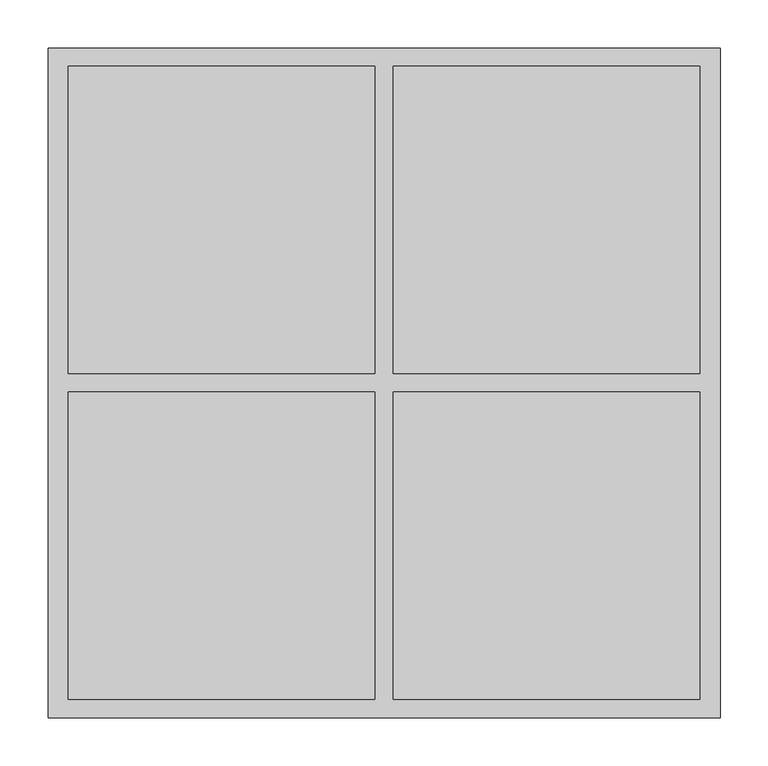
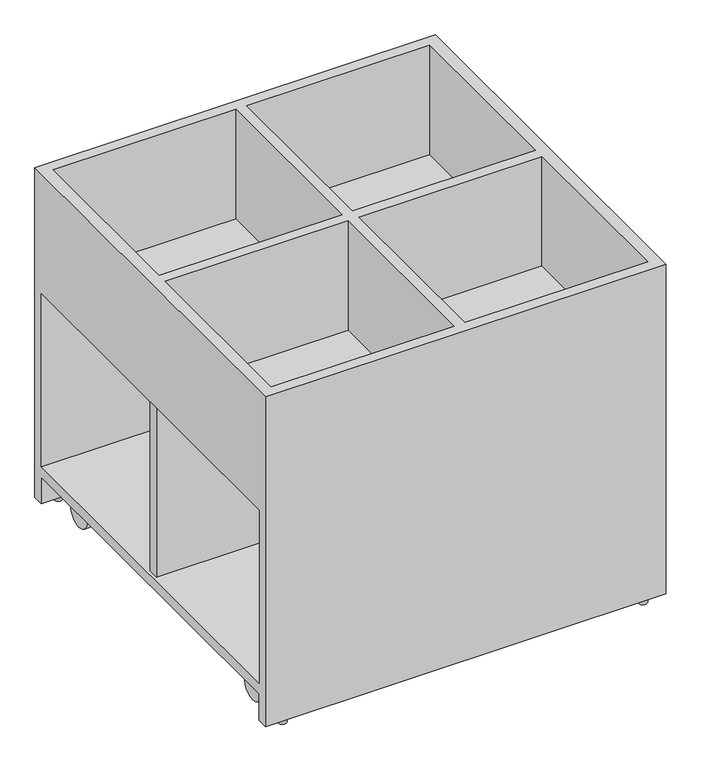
"""IFC4 building model written with IfcOpenShell, lengths in millimetres: furniture geometry, BK Library - Ella - Double Medium : BK Library - Ella - Double Medium."""

from ifc_helpers import new_model, si_unit, point, frame, frame_2d, origin, place, context, project, spatial, polyline, circle_curve, trimmed, segment, composite_curve, outline, extrude, faceted_brep, source, transform, mapped, element, save
from ifc_brep_helpers import plane_surface, cylinder_surface, advanced_brep


def furniture_719346cd(model_context):
    return source(origin(), model_context, "Body", "SolidModel", [
        extrude(outline(composite_curve([segment(polyline([(-315.0, 300.0), (-283.0, 300.0)]), True, "CONTINUOUS"), segment(trimmed(circle_curve(frame_2d((-283.0, 295.0)), 5.0), [point((-283.0, 300.0))], [point((-278.0, 295.0))], False, "CARTESIAN"), True, "CONTINUOUS"), segment(polyline([(-278.0, 295.0), (-278.0, 263.0)]), True, "CONTINUOUS"), segment(trimmed(circle_curve(frame_2d((-283.0, 263.0)), 5.0), [point((-278.0, 263.0))], [point((-283.0, 258.0))], False, "CARTESIAN"), True, "CONTINUOUS"), segment(polyline([(-283.0, 258.0), (-315.0, 258.0)]), True, "CONTINUOUS"), segment(trimmed(circle_curve(frame_2d((-315.0, 263.0)), 5.0), [point((-315.0, 258.0))], [point((-320.0, 263.0))], False, "CARTESIAN"), True, "CONTINUOUS"), segment(polyline([(-320.0, 263.0), (-320.0, 295.0)]), True, "CONTINUOUS"), segment(trimmed(circle_curve(frame_2d((-315.0, 295.0)), 5.0), [point((-320.0, 295.0))], [point((-315.0, 300.0))], False, "CARTESIAN"), True, "CONTINUOUS")], self_intersect=False)), frame((0.0, 0.0, 57.5), z_axis=(0.0, 0.0, 1.0), x_axis=(1.0, 0.0, 0.0)), (0.0, 0.0, 1.0), 3.0),
        extrude(outline(composite_curve([segment(trimmed(circle_curve(frame_2d((315.0, 295.0)), 5.0), [point((315.0, 300.0))], [point((320.0, 295.0))], False, "CARTESIAN"), True, "CONTINUOUS"), segment(polyline([(320.0, 295.0), (320.0, 263.0)]), True, "CONTINUOUS"), segment(trimmed(circle_curve(frame_2d((315.0, 263.0)), 5.0), [point((320.0, 263.0))], [point((315.0, 258.0))], False, "CARTESIAN"), True, "CONTINUOUS"), segment(polyline([(315.0, 258.0), (283.0, 258.0)]), True, "CONTINUOUS"), segment(trimmed(circle_curve(frame_2d((283.0, 263.0)), 5.0), [point((283.0, 258.0))], [point((278.0, 263.0))], False, "CARTESIAN"), True, "CONTINUOUS"), segment(polyline([(278.0, 263.0), (278.0, 295.0)]), True, "CONTINUOUS"), segment(trimmed(circle_curve(frame_2d((283.0, 295.0)), 5.0), [point((278.0, 295.0))], [point((283.0, 300.0))], False, "CARTESIAN"), True, "CONTINUOUS"), segment(polyline([(283.0, 300.0), (315.0, 300.0)]), True, "CONTINUOUS")], self_intersect=False)), frame((0.0, 0.0, 57.5), z_axis=(0.0, 0.0, 1.0), x_axis=(1.0, 0.0, 0.0)), (0.0, 0.0, 1.0), 3.0),
        extrude(outline(composite_curve([segment(polyline([(315.0, -300.0), (283.0, -300.0)]), True, "CONTINUOUS"), segment(trimmed(circle_curve(frame_2d((283.0, -295.0)), 5.0), [point((283.0, -300.0))], [point((278.0, -295.0))], False, "CARTESIAN"), True, "CONTINUOUS"), segment(polyline([(278.0, -295.0), (278.0, -263.0)]), True, "CONTINUOUS"), segment(trimmed(circle_curve(frame_2d((283.0, -263.0)), 5.0), [point((278.0, -263.0))], [point((283.0, -258.0))], False, "CARTESIAN"), True, "CONTINUOUS"), segment(polyline([(283.0, -258.0), (315.0, -258.0)]), True, "CONTINUOUS"), segment(trimmed(circle_curve(frame_2d((315.0, -263.0)), 5.0), [point((315.0, -258.0))], [point((320.0, -263.0))], False, "CARTESIAN"), True, "CONTINUOUS"), segment(polyline([(320.0, -263.0), (320.0, -295.0)]), True, "CONTINUOUS"), segment(trimmed(circle_curve(frame_2d((315.0, -295.0)), 5.0), [point((320.0, -295.0))], [point((315.0, -300.0))], False, "CARTESIAN"), True, "CONTINUOUS")], self_intersect=False)), frame((0.0, 0.0, 57.5), z_axis=(0.0, 0.0, 1.0), x_axis=(1.0, 0.0, 0.0)), (0.0, 0.0, 1.0), 3.0),
        extrude(outline(composite_curve([segment(trimmed(circle_curve(frame_2d((-315.0, -295.0)), 5.0), [point((-315.0, -300.0))], [point((-320.0, -295.0))], False, "CARTESIAN"), True, "CONTINUOUS"), segment(polyline([(-320.0, -295.0), (-320.0, -263.0)]), True, "CONTINUOUS"), segment(trimmed(circle_curve(frame_2d((-315.0, -263.0)), 5.0), [point((-320.0, -263.0))], [point((-315.0, -258.0))], False, "CARTESIAN"), True, "CONTINUOUS"), segment(polyline([(-315.0, -258.0), (-283.0, -258.0)]), True, "CONTINUOUS"), segment(trimmed(circle_curve(frame_2d((-283.0, -263.0)), 5.0), [point((-283.0, -258.0))], [point((-278.0, -263.0))], False, "CARTESIAN"), True, "CONTINUOUS"), segment(polyline([(-278.0, -263.0), (-278.0, -295.0)]), True, "CONTINUOUS"), segment(trimmed(circle_curve(frame_2d((-283.0, -295.0)), 5.0), [point((-278.0, -295.0))], [point((-283.0, -300.0))], False, "CARTESIAN"), True, "CONTINUOUS"), segment(polyline([(-283.0, -300.0), (-315.0, -300.0)]), True, "CONTINUOUS")], self_intersect=False)), frame((0.0, 0.0, 57.5), z_axis=(0.0, 0.0, 1.0), x_axis=(1.0, 0.0, 0.0)), (0.0, 0.0, 1.0), 3.0),
        extrude(outline(composite_curve([segment(trimmed(circle_curve(frame_2d((-315.0699503, -339.5817688)), 7.5), [point((-322.5699503, -339.5817688))], [point((-307.5699503, -339.5817688))], False, "CARTESIAN"), True, "CONTINUOUS"), segment(trimmed(circle_curve(frame_2d((-315.0699503, -339.5817688)), 7.5), [point((-307.5699503, -339.5817688))], [point((-322.5699503, -339.5817688))], False, "CARTESIAN"), True, "CONTINUOUS")], self_intersect=False)), frame((0.0, 0.0, 3.0227299), z_axis=(0.0, 0.0, 1.0), x_axis=(1.0, 0.0, 0.0)), (0.0, 0.0, 1.0), 8.5),
        extrude(outline(composite_curve([segment(trimmed(circle_curve(frame_2d((315.0699503, -339.5817688)), 7.5), [point((307.5699503, -339.5817688))], [point((322.5699503, -339.5817688))], False, "CARTESIAN"), True, "CONTINUOUS"), segment(trimmed(circle_curve(frame_2d((315.0699503, -339.5817688)), 7.5), [point((322.5699503, -339.5817688))], [point((307.5699503, -339.5817688))], False, "CARTESIAN"), True, "CONTINUOUS")], self_intersect=False)), frame((0.0, 0.0, 3.0227299), z_axis=(0.0, 0.0, 1.0), x_axis=(1.0, 0.0, 0.0)), (0.0, 0.0, 1.0), 8.5),
        extrude(outline(composite_curve([segment(trimmed(circle_curve(frame_2d((-315.0699503, 339.5817688)), 7.5), [point((-322.5699503, 339.5817688))], [point((-307.5699503, 339.5817688))], False, "CARTESIAN"), True, "CONTINUOUS"), segment(trimmed(circle_curve(frame_2d((-315.0699503, 339.5817688)), 7.5), [point((-307.5699503, 339.5817688))], [point((-322.5699503, 339.5817688))], False, "CARTESIAN"), True, "CONTINUOUS")], self_intersect=False)), frame((0.0, 0.0, 3.0227299), z_axis=(0.0, 0.0, 1.0), x_axis=(1.0, 0.0, 0.0)), (0.0, 0.0, 1.0), 8.5),
        extrude(outline(composite_curve([segment(trimmed(circle_curve(frame_2d((315.0699503, 339.5817688)), 7.5), [point((307.5699503, 339.5817688))], [point((322.5699503, 339.5817688))], False, "CARTESIAN"), True, "CONTINUOUS"), segment(trimmed(circle_curve(frame_2d((315.0699503, 339.5817688)), 7.5), [point((322.5699503, 339.5817688))], [point((307.5699503, 339.5817688))], False, "CARTESIAN"), True, "CONTINUOUS")], self_intersect=False)), frame((0.0, 0.0, 3.0227299), z_axis=(0.0, 0.0, 1.0), x_axis=(1.0, 0.0, 0.0)), (0.0, 0.0, 1.0), 8.5),
        faceted_brep([(-329.0, 330.0, 620.5), (-329.0, 9.5, 620.5), (-329.0, 9.5, 418.5), (-329.0, 330.0, 418.5), (-329.0, -9.5, 620.5), (-329.0, -330.0, 620.5), (-329.0, -330.0, 418.5), (-329.0, -9.5, 418.5), (-350.0, 349.0, 620.5), (-350.0, 349.0, 11.5), (-350.0, 330.0, 11.5), (-350.0, 330.0, 60.5), (-350.0, -330.0, 60.5), (-350.0, -330.0, 11.5), (-350.0, -349.0, 11.5), (-350.0, -349.0, 620.5), (-350.0, 330.0, 399.5), (-350.0, -330.0, 399.5), (-350.0, -330.0, 79.5), (-350.0, 330.0, 79.5), (-9.5, 330.0, 399.5), (-9.5, 9.5, 399.5), (-344.5, 9.5, 399.5), (-344.5, -9.5, 399.5), (-9.5, -9.5, 399.5), (-9.5, -330.0, 399.5), (344.5, -9.5, 399.5), (344.5, 9.5, 399.5), (9.5, 9.5, 399.5), (9.5, 330.0, 399.5), (350.0, 330.0, 399.5), (350.0, -330.0, 399.5), (9.5, -330.0, 399.5), (9.5, -9.5, 399.5), (350.0, 349.0, 620.5), (350.0, -349.0, 620.5), (-9.5, -9.5, 620.5), (-9.5, -330.0, 620.5), (9.5, -330.0, 620.5), (9.5, -9.5, 620.5), (329.0, -9.5, 620.5), (329.0, -330.0, 620.5), (9.5, 9.5, 620.5), (9.5, 330.0, 620.5), (329.0, 330.0, 620.5), (329.0, 9.5, 620.5), (-9.5, 330.0, 620.5), (-9.5, 9.5, 620.5), (350.0, 330.0, 11.5), (350.0, 349.0, 11.5), (350.0, -349.0, 11.5), (350.0, -330.0, 11.5), (350.0, -330.0, 60.5), (350.0, 330.0, 60.5), (350.0, 330.0, 79.5), (350.0, -330.0, 79.5), (-9.5, 330.0, 79.5), (9.5, 330.0, 79.5), (9.5, 330.0, 418.5), (329.0, 330.0, 418.5), (-9.5, 330.0, 418.5), (329.0, -9.5, 418.5), (329.0, -330.0, 418.5), (329.0, 9.5, 418.5), (-9.5, -330.0, 79.5), (-9.5, -9.5, 79.5), (-344.5, -9.5, 79.5), (-344.5, 9.5, 79.5), (-9.5, 9.5, 79.5), (9.5, 9.5, 79.5), (344.5, 9.5, 79.5), (344.5, -9.5, 79.5), (9.5, -9.5, 79.5), (9.5, -330.0, 79.5), (-9.5, -330.0, 418.5), (9.5, -330.0, 418.5), (-9.5, 9.5, 418.5), (-9.5, -9.5, 418.5), (9.5, -9.5, 418.5), (9.5, 9.5, 418.5)], [[[0, 1, 2, 3]], [[4, 5, 6, 7]], [[8, 9, 10, 11, 12, 13, 14, 15], [16, 17, 18, 19]], [[17, 16, 20, 21, 22, 23, 24, 25]], [[26, 27, 28, 29, 30, 31, 32, 33]], [[34, 8, 15, 35], [36, 37, 5, 4], [38, 39, 40, 41], [42, 43, 44, 45], [46, 47, 1, 0]], [[48, 49, 34, 35, 50, 51, 52, 53], [31, 30, 54, 55]], [[20, 16, 19, 56]], [[30, 29, 57, 54]], [[44, 43, 58, 59]], [[46, 0, 3, 60]], [[10, 48, 53, 11]], [[49, 48, 10, 9]], [[34, 49, 9, 8]], [[41, 40, 61, 62]], [[45, 44, 59, 63]], [[19, 18, 64, 65, 66, 67, 68, 56]], [[55, 54, 57, 69, 70, 71, 72, 73]], [[53, 52, 12, 11]], [[18, 17, 25, 64]], [[32, 31, 55, 73]], [[5, 37, 74, 6]], [[38, 41, 62, 75]], [[51, 13, 12, 52]], [[51, 50, 14, 13]], [[50, 35, 15, 14]], [[1, 47, 76, 2]], [[67, 22, 21, 68]], [[22, 67, 66, 23]], [[24, 23, 66, 65]], [[36, 4, 7, 77]], [[37, 36, 77, 74]], [[65, 64, 25, 24]], [[39, 38, 75, 78]], [[73, 72, 33, 32]], [[40, 39, 78, 61]], [[71, 26, 33, 72]], [[26, 71, 70, 27]], [[28, 27, 70, 69]], [[42, 45, 63, 79]], [[43, 42, 79, 58]], [[69, 57, 29, 28]], [[47, 46, 60, 76]], [[56, 68, 21, 20]], [[3, 2, 76, 60]], [[7, 6, 74, 77]], [[59, 58, 79, 63]], [[62, 61, 78, 75]]]),
        advanced_brep(
        [(-288.2, 259.8173932, 49.2209016), (-309.8, 259.8173932, 49.2209016), (-309.8, 237.8179223, 24.4016183), (-309.8, 239.7779412, 14.6980483), (-288.2, 239.7779412, 14.6980483), (-288.2, 237.8179223, 24.4016183), (-288.2, 259.8173932, 49.6980483), (-309.8, 259.8173932, 49.6980483), (-288.2, 280.4771182, 49.6980483), (-309.8, 280.4771182, 49.6980483), (-309.8, 280.4771182, 14.6980483), (-288.2, 280.4771182, 14.6980483)],
        [
            (0, 1),
            (1, 2, circle_curve(frame((-309.8, 262.8179223, 24.4016183), z_axis=(1.0, 0.0, 0.0), x_axis=(0.0, 1.0, 0.0)), 25.0)),
            (2, 3, circle_curve(frame((-309.8, 262.8179223, 24.4016183), z_axis=(1.0, 0.0, 0.0), x_axis=(0.0, 1.0, 0.0)), 25.0)),
            (3, 4),
            (4, 5, circle_curve(frame((-288.2, 262.8179223, 24.4016183), z_axis=(-1.0, 0.0, 0.0), x_axis=(0.0, 1.0, 0.0)), 25.0)),
            (5, 0, circle_curve(frame((-288.2, 262.8179223, 24.4016183), z_axis=(-1.0, 0.0, 0.0), x_axis=(0.0, 1.0, 0.0)), 25.0)),
            (0, 6),
            (6, 7),
            (7, 1),
            (8, 9, circle_curve(frame((-299.0, 278.3890569, 49.6980483), z_axis=(0.0, 0.0, 1.0), x_axis=(1.0, 0.0, 0.0)), 11.0)),
            (9, 7),
            (6, 8),
            (10, 11, circle_curve(frame((-299.0, 278.3890569, 14.6980483), z_axis=(0.0, 0.0, -1.0), x_axis=(1.0, 0.0, 0.0)), 11.0)),
            (11, 4),
            (3, 10),
            (9, 10),
            (11, 8),
        ],
        [
            cylinder_surface(frame((-324.3021081, 262.8179223, 24.4016183), z_axis=(-1.0, 0.0, 0.0), x_axis=(0.0, 1.0, 0.0)), 25.0),
            plane_surface(frame((-256.1806068, 259.8173932, 49.2209016), z_axis=(0.0, -1.0, 0.0), x_axis=(-1.0, 0.0, 0.0))),
            plane_surface(frame((-309.8, 237.8179223, 49.6980483), z_axis=(0.0, 0.0, 1.0), x_axis=(0.0, -1.0, 0.0))),
            plane_surface(frame((-309.8, 237.8179223, 14.6980483), z_axis=(0.0, 0.0, -1.0), x_axis=(0.0, 1.0, 0.0))),
            plane_surface(frame((-309.8, 280.4771182, 49.6980483), z_axis=(-1.0, 0.0, 0.0), x_axis=(0.0, 0.0, -1.0))),
            plane_surface(frame((-288.2, 237.8179223, 49.6980483), z_axis=(1.0, 0.0, 0.0), x_axis=(0.0, 0.0, -1.0))),
            cylinder_surface(frame((-299.0, 278.3890569, 14.6980483), z_axis=(0.0, 0.0, 1.0), x_axis=(1.0, 0.0, 0.0)), 11.0),
        ],
        [
            (0, [[1, 2, 3, 4, 5, 6]]),
            (1, [[-1, 7, 8, 9]]),
            (2, [[10, 11, -8, 12]]),
            (3, [[13, 14, -4, 15]]),
            (4, [[16, -15, -3, -2, -9, -11]]),
            (5, [[17, -12, -7, -6, -5, -14]]),
            (6, [[-10, -17, -13, -16]]),
        ],
    ),
        advanced_brep(
        [(-309.8, 237.8179223, 24.4016183), (-309.8, 239.7779412, 14.6980483), (-309.8, 287.8179223, 24.4016183), (-309.8, 259.8173932, 49.2209016), (-322.8, 237.8179223, 24.4016183), (-322.8, 259.8173932, 49.2209016), (-322.8, 287.8179223, 24.4016183), (-322.8, 239.7779412, 14.6980483)],
        [
            (0, 1, circle_curve(frame((-309.8, 262.8179223, 24.4016183), z_axis=(1.0, 0.0, 0.0), x_axis=(0.0, 1.0, 0.0)), 25.0)),
            (1, 2, circle_curve(frame((-309.8, 262.8179223, 24.4016183), z_axis=(1.0, 0.0, 0.0), x_axis=(0.0, 1.0, 0.0)), 25.0)),
            (2, 3, circle_curve(frame((-309.8, 262.8179223, 24.4016183), z_axis=(1.0, 0.0, 0.0), x_axis=(0.0, 1.0, 0.0)), 25.0)),
            (3, 0, circle_curve(frame((-309.8, 262.8179223, 24.4016183), z_axis=(1.0, 0.0, 0.0), x_axis=(0.0, 1.0, 0.0)), 25.0)),
            (4, 5, circle_curve(frame((-322.8, 262.8179223, 24.4016183), z_axis=(-1.0, 0.0, 0.0), x_axis=(0.0, 1.0, 0.0)), 25.0)),
            (5, 6, circle_curve(frame((-322.8, 262.8179223, 24.4016183), z_axis=(-1.0, 0.0, 0.0), x_axis=(0.0, 1.0, 0.0)), 25.0)),
            (6, 7, circle_curve(frame((-322.8, 262.8179223, 24.4016183), z_axis=(-1.0, 0.0, 0.0), x_axis=(0.0, 1.0, 0.0)), 25.0)),
            (7, 4, circle_curve(frame((-322.8, 262.8179223, 24.4016183), z_axis=(-1.0, 0.0, 0.0), x_axis=(0.0, 1.0, 0.0)), 25.0)),
            (0, 4),
            (6, 2),
        ],
        [
            plane_surface(frame((-309.8, 287.8179223, 24.4016183), z_axis=(1.0, 0.0, 0.0), x_axis=(0.0, 0.0, 1.0))),
            plane_surface(frame((-322.8, 287.8179223, 24.4016183), z_axis=(-1.0, 0.0, 0.0), x_axis=(0.0, 0.0, -1.0))),
            cylinder_surface(frame((-322.8, 262.8179223, 24.4016183), z_axis=(1.0, 0.0, 0.0), x_axis=(0.0, 1.0, 0.0)), 25.0),
        ],
        [
            (0, [[1, 2, 3, 4]]),
            (1, [[5, 6, 7, 8]]),
            (2, [[9, -8, -7, 10, -2, -1]]),
            (2, [[-9, -4, -3, -10, -6, -5]]),
        ],
    ),
        advanced_brep(
        [(-275.2, 237.8179223, 24.4016183), (-275.2, 239.7779412, 14.6980483), (-275.2, 287.8179223, 24.4016183), (-275.2, 259.8173932, 49.2209016), (-288.2, 237.8179223, 24.4016183), (-288.2, 259.8173932, 49.2209016), (-288.2, 287.8179223, 24.4016183), (-288.2, 239.7779412, 14.6980483)],
        [
            (0, 1, circle_curve(frame((-275.2, 262.8179223, 24.4016183), z_axis=(1.0, 0.0, 0.0), x_axis=(0.0, 1.0, 0.0)), 25.0)),
            (1, 2, circle_curve(frame((-275.2, 262.8179223, 24.4016183), z_axis=(1.0, 0.0, 0.0), x_axis=(0.0, 1.0, 0.0)), 25.0)),
            (2, 3, circle_curve(frame((-275.2, 262.8179223, 24.4016183), z_axis=(1.0, 0.0, 0.0), x_axis=(0.0, 1.0, 0.0)), 25.0)),
            (3, 0, circle_curve(frame((-275.2, 262.8179223, 24.4016183), z_axis=(1.0, 0.0, 0.0), x_axis=(0.0, 1.0, 0.0)), 25.0)),
            (4, 5, circle_curve(frame((-288.2, 262.8179223, 24.4016183), z_axis=(-1.0, 0.0, 0.0), x_axis=(0.0, 1.0, 0.0)), 25.0)),
            (5, 6, circle_curve(frame((-288.2, 262.8179223, 24.4016183), z_axis=(-1.0, 0.0, 0.0), x_axis=(0.0, 1.0, 0.0)), 25.0)),
            (6, 7, circle_curve(frame((-288.2, 262.8179223, 24.4016183), z_axis=(-1.0, 0.0, 0.0), x_axis=(0.0, 1.0, 0.0)), 25.0)),
            (7, 4, circle_curve(frame((-288.2, 262.8179223, 24.4016183), z_axis=(-1.0, 0.0, 0.0), x_axis=(0.0, 1.0, 0.0)), 25.0)),
            (0, 4),
            (6, 2),
        ],
        [
            plane_surface(frame((-275.2, 287.8179223, 24.4016183), z_axis=(1.0, 0.0, 0.0), x_axis=(0.0, 0.0, 1.0))),
            plane_surface(frame((-288.2, 287.8179223, 24.4016183), z_axis=(-1.0, 0.0, 0.0), x_axis=(0.0, 0.0, -1.0))),
            cylinder_surface(frame((-288.2, 262.8179223, 24.4016183), z_axis=(1.0, 0.0, 0.0), x_axis=(0.0, 1.0, 0.0)), 25.0),
        ],
        [
            (0, [[1, 2, 3, 4]]),
            (1, [[5, 6, 7, 8]]),
            (2, [[9, -8, -7, 10, -2, -1]]),
            (2, [[-9, -4, -3, -10, -6, -5]]),
        ],
    ),
        extrude(outline(composite_curve([segment(trimmed(circle_curve(frame_2d((-299.0, 278.3890569)), 6.9282032), [point((-305.9282032, 278.3890569))], [point((-292.0717968, 278.3890569))], False, "CARTESIAN"), True, "CONTINUOUS"), segment(trimmed(circle_curve(frame_2d((-299.0, 278.3890569)), 6.9282032), [point((-292.0717968, 278.3890569))], [point((-305.9282032, 278.3890569))], False, "CARTESIAN"), True, "CONTINUOUS")], self_intersect=False)), frame((0.0, 0.0, 49.639875), z_axis=(0.0, 0.0, 1.0), x_axis=(1.0, 0.0, 0.0)), (0.0, 0.0, 1.0), 7.860125),
        advanced_brep(
        [(309.8, 259.8173932, 49.2209016), (288.2, 259.8173932, 49.2209016), (288.2, 237.8179223, 24.4016183), (288.2, 239.7779412, 14.6980483), (309.8, 239.7779412, 14.6980483), (309.8, 237.8179223, 24.4016183), (309.8, 259.8173932, 49.6980483), (288.2, 259.8173932, 49.6980483), (309.8, 280.4771182, 49.6980483), (288.2, 280.4771182, 49.6980483), (288.2, 280.4771182, 14.6980483), (309.8, 280.4771182, 14.6980483)],
        [
            (0, 1),
            (1, 2, circle_curve(frame((288.2, 262.8179223, 24.4016183), z_axis=(1.0, 0.0, 0.0), x_axis=(0.0, 1.0, 0.0)), 25.0)),
            (2, 3, circle_curve(frame((288.2, 262.8179223, 24.4016183), z_axis=(1.0, 0.0, 0.0), x_axis=(0.0, 1.0, 0.0)), 25.0)),
            (3, 4),
            (4, 5, circle_curve(frame((309.8, 262.8179223, 24.4016183), z_axis=(-1.0, 0.0, 0.0), x_axis=(0.0, 1.0, 0.0)), 25.0)),
            (5, 0, circle_curve(frame((309.8, 262.8179223, 24.4016183), z_axis=(-1.0, 0.0, 0.0), x_axis=(0.0, 1.0, 0.0)), 25.0)),
            (0, 6),
            (6, 7),
            (7, 1),
            (8, 9, circle_curve(frame((299.0, 278.3890569, 49.6980483), z_axis=(0.0, 0.0, 1.0), x_axis=(-1.0, 0.0, 0.0)), 11.0)),
            (9, 7),
            (6, 8),
            (10, 11, circle_curve(frame((299.0, 278.3890569, 14.6980483), z_axis=(0.0, 0.0, -1.0), x_axis=(-1.0, 0.0, 0.0)), 11.0)),
            (11, 4),
            (3, 10),
            (11, 8),
            (9, 10),
        ],
        [
            cylinder_surface(frame((324.3021081, 262.8179223, 24.4016183), z_axis=(1.0, 0.0, 0.0), x_axis=(0.0, 1.0, 0.0)), 25.0),
            plane_surface(frame((256.1806068, 259.8173932, 52.6059684), z_axis=(0.0, -1.0, 0.0), x_axis=(1.0, 0.0, 0.0))),
            plane_surface(frame((288.0, 278.3890569, 49.6980483), z_axis=(0.0, 0.0, 1.0), x_axis=(0.0, -1.0, 0.0))),
            plane_surface(frame((288.0, 278.3890569, 14.6980483), z_axis=(0.0, 0.0, -1.0), x_axis=(0.0, 1.0, 0.0))),
            plane_surface(frame((309.8, 237.8179223, 49.6980483), z_axis=(1.0, 0.0, 0.0), x_axis=(0.0, 0.0, -1.0))),
            plane_surface(frame((288.2, 280.4771182, 49.6980483), z_axis=(-1.0, 0.0, 0.0), x_axis=(0.0, 0.0, -1.0))),
            cylinder_surface(frame((299.0, 278.3890569, 14.6980483), z_axis=(0.0, 0.0, 1.0), x_axis=(-1.0, 0.0, 0.0)), 11.0),
        ],
        [
            (0, [[1, 2, 3, 4, 5, 6]]),
            (1, [[-1, 7, 8, 9]]),
            (2, [[10, 11, -8, 12]]),
            (3, [[13, 14, -4, 15]]),
            (4, [[16, -12, -7, -6, -5, -14]]),
            (5, [[17, -15, -3, -2, -9, -11]]),
            (6, [[-10, -16, -13, -17]]),
        ],
    ),
        advanced_brep(
        [(309.8, 237.8179223, 24.4016183), (309.8, 259.8173932, 49.2209016), (309.8, 287.8179223, 24.4016183), (309.8, 239.7779412, 14.6980483), (322.8, 237.8179223, 24.4016183), (322.8, 239.7779412, 14.6980483), (322.8, 287.8179223, 24.4016183), (322.8, 259.8173932, 49.2209016)],
        [
            (0, 1, circle_curve(frame((309.8, 262.8179223, 24.4016183), z_axis=(-1.0, 0.0, 0.0), x_axis=(0.0, 1.0, 0.0)), 25.0)),
            (1, 2, circle_curve(frame((309.8, 262.8179223, 24.4016183), z_axis=(-1.0, 0.0, 0.0), x_axis=(0.0, 1.0, 0.0)), 25.0)),
            (2, 3, circle_curve(frame((309.8, 262.8179223, 24.4016183), z_axis=(-1.0, 0.0, 0.0), x_axis=(0.0, 1.0, 0.0)), 25.0)),
            (3, 0, circle_curve(frame((309.8, 262.8179223, 24.4016183), z_axis=(-1.0, 0.0, 0.0), x_axis=(0.0, 1.0, 0.0)), 25.0)),
            (4, 5, circle_curve(frame((322.8, 262.8179223, 24.4016183), z_axis=(1.0, 0.0, 0.0), x_axis=(0.0, 1.0, 0.0)), 25.0)),
            (5, 6, circle_curve(frame((322.8, 262.8179223, 24.4016183), z_axis=(1.0, 0.0, 0.0), x_axis=(0.0, 1.0, 0.0)), 25.0)),
            (6, 7, circle_curve(frame((322.8, 262.8179223, 24.4016183), z_axis=(1.0, 0.0, 0.0), x_axis=(0.0, 1.0, 0.0)), 25.0)),
            (7, 4, circle_curve(frame((322.8, 262.8179223, 24.4016183), z_axis=(1.0, 0.0, 0.0), x_axis=(0.0, 1.0, 0.0)), 25.0)),
            (2, 6),
            (4, 0),
        ],
        [
            plane_surface(frame((309.8, 287.8179223, 24.4016183), z_axis=(-1.0, 0.0, 0.0), x_axis=(0.0, 0.0, -1.0))),
            plane_surface(frame((322.8, 287.8179223, 24.4016183), z_axis=(1.0, 0.0, 0.0), x_axis=(0.0, 0.0, 1.0))),
            cylinder_surface(frame((322.8, 262.8179223, 24.4016183), z_axis=(-1.0, 0.0, 0.0), x_axis=(0.0, 1.0, 0.0)), 25.0),
        ],
        [
            (0, [[1, 2, 3, 4]]),
            (1, [[5, 6, 7, 8]]),
            (2, [[9, -6, -5, 10, -4, -3]]),
            (2, [[-9, -2, -1, -10, -8, -7]]),
        ],
    ),
        advanced_brep(
        [(275.2, 237.8179223, 24.4016183), (275.2, 259.8173932, 49.2209016), (275.2, 287.8179223, 24.4016183), (275.2, 239.7779412, 14.6980483), (288.2, 237.8179223, 24.4016183), (288.2, 239.7779412, 14.6980483), (288.2, 287.8179223, 24.4016183), (288.2, 259.8173932, 49.2209016)],
        [
            (0, 1, circle_curve(frame((275.2, 262.8179223, 24.4016183), z_axis=(-1.0, 0.0, 0.0), x_axis=(0.0, 1.0, 0.0)), 25.0)),
            (1, 2, circle_curve(frame((275.2, 262.8179223, 24.4016183), z_axis=(-1.0, 0.0, 0.0), x_axis=(0.0, 1.0, 0.0)), 25.0)),
            (2, 3, circle_curve(frame((275.2, 262.8179223, 24.4016183), z_axis=(-1.0, 0.0, 0.0), x_axis=(0.0, 1.0, 0.0)), 25.0)),
            (3, 0, circle_curve(frame((275.2, 262.8179223, 24.4016183), z_axis=(-1.0, 0.0, 0.0), x_axis=(0.0, 1.0, 0.0)), 25.0)),
            (4, 5, circle_curve(frame((288.2, 262.8179223, 24.4016183), z_axis=(1.0, 0.0, 0.0), x_axis=(0.0, 1.0, 0.0)), 25.0)),
            (5, 6, circle_curve(frame((288.2, 262.8179223, 24.4016183), z_axis=(1.0, 0.0, 0.0), x_axis=(0.0, 1.0, 0.0)), 25.0)),
            (6, 7, circle_curve(frame((288.2, 262.8179223, 24.4016183), z_axis=(1.0, 0.0, 0.0), x_axis=(0.0, 1.0, 0.0)), 25.0)),
            (7, 4, circle_curve(frame((288.2, 262.8179223, 24.4016183), z_axis=(1.0, 0.0, 0.0), x_axis=(0.0, 1.0, 0.0)), 25.0)),
            (2, 6),
            (4, 0),
        ],
        [
            plane_surface(frame((275.2, 287.8179223, 24.4016183), z_axis=(-1.0, 0.0, 0.0), x_axis=(0.0, 0.0, -1.0))),
            plane_surface(frame((288.2, 287.8179223, 24.4016183), z_axis=(1.0, 0.0, 0.0), x_axis=(0.0, 0.0, 1.0))),
            cylinder_surface(frame((288.2, 262.8179223, 24.4016183), z_axis=(-1.0, 0.0, 0.0), x_axis=(0.0, 1.0, 0.0)), 25.0),
        ],
        [
            (0, [[1, 2, 3, 4]]),
            (1, [[5, 6, 7, 8]]),
            (2, [[9, -6, -5, 10, -4, -3]]),
            (2, [[-9, -2, -1, -10, -8, -7]]),
        ],
    ),
        extrude(outline(composite_curve([segment(trimmed(circle_curve(frame_2d((299.0, 278.3890569)), 6.9282032), [point((305.9282032, 278.3890569))], [point((292.0717968, 278.3890569))], False, "CARTESIAN"), True, "CONTINUOUS"), segment(trimmed(circle_curve(frame_2d((299.0, 278.3890569)), 6.9282032), [point((292.0717968, 278.3890569))], [point((305.9282032, 278.3890569))], False, "CARTESIAN"), True, "CONTINUOUS")], self_intersect=False)), frame((0.0, 0.0, 49.639875), z_axis=(0.0, 0.0, 1.0), x_axis=(1.0, 0.0, 0.0)), (0.0, 0.0, 1.0), 7.860125),
        advanced_brep(
        [(288.2, -259.8173932, 49.2209016), (309.8, -259.8173932, 49.2209016), (309.8, -237.8179223, 24.4016183), (309.8, -239.7779412, 14.6980483), (288.2, -239.7779412, 14.6980483), (288.2, -237.8179223, 24.4016183), (288.2, -259.8173932, 49.6980483), (309.8, -259.8173932, 49.6980483), (288.2, -280.4771182, 49.6980483), (309.8, -280.4771182, 49.6980483), (309.8, -280.4771182, 14.6980483), (288.2, -280.4771182, 14.6980483)],
        [
            (0, 1),
            (1, 2, circle_curve(frame((309.8, -262.8179223, 24.4016183), z_axis=(-1.0, 0.0, 0.0), x_axis=(0.0, -1.0, 0.0)), 25.0)),
            (2, 3, circle_curve(frame((309.8, -262.8179223, 24.4016183), z_axis=(-1.0, 0.0, 0.0), x_axis=(0.0, -1.0, 0.0)), 25.0)),
            (3, 4),
            (4, 5, circle_curve(frame((288.2, -262.8179223, 24.4016183), z_axis=(1.0, 0.0, 0.0), x_axis=(0.0, -1.0, 0.0)), 25.0)),
            (5, 0, circle_curve(frame((288.2, -262.8179223, 24.4016183), z_axis=(1.0, 0.0, 0.0), x_axis=(0.0, -1.0, 0.0)), 25.0)),
            (0, 6),
            (6, 7),
            (7, 1),
            (8, 9, circle_curve(frame((299.0, -278.3890569, 49.6980483), z_axis=(0.0, 0.0, 1.0), x_axis=(-1.0, 0.0, 0.0)), 11.0)),
            (9, 7),
            (6, 8),
            (10, 11, circle_curve(frame((299.0, -278.3890569, 14.6980483), z_axis=(0.0, 0.0, -1.0), x_axis=(-1.0, 0.0, 0.0)), 11.0)),
            (11, 4),
            (3, 10),
            (9, 10),
            (11, 8),
        ],
        [
            cylinder_surface(frame((324.3021081, -262.8179223, 24.4016183), z_axis=(1.0, 0.0, 0.0), x_axis=(0.0, -1.0, 0.0)), 25.0),
            plane_surface(frame((256.1806068, -259.8173932, 49.2209016), z_axis=(0.0, 1.0, 0.0), x_axis=(1.0, 0.0, 0.0))),
            plane_surface(frame((309.8, -237.8179223, 49.6980483), z_axis=(0.0, 0.0, 1.0), x_axis=(0.0, 1.0, 0.0))),
            plane_surface(frame((309.8, -237.8179223, 14.6980483), z_axis=(0.0, 0.0, -1.0), x_axis=(0.0, -1.0, 0.0))),
            plane_surface(frame((309.8, -280.4771182, 49.6980483), z_axis=(1.0, 0.0, 0.0), x_axis=(0.0, 0.0, -1.0))),
            plane_surface(frame((288.2, -237.8179223, 49.6980483), z_axis=(-1.0, 0.0, 0.0), x_axis=(0.0, 0.0, -1.0))),
            cylinder_surface(frame((299.0, -278.3890569, 14.6980483), z_axis=(0.0, 0.0, 1.0), x_axis=(-1.0, 0.0, 0.0)), 11.0),
        ],
        [
            (0, [[1, 2, 3, 4, 5, 6]]),
            (1, [[-1, 7, 8, 9]]),
            (2, [[10, 11, -8, 12]]),
            (3, [[13, 14, -4, 15]]),
            (4, [[16, -15, -3, -2, -9, -11]]),
            (5, [[17, -12, -7, -6, -5, -14]]),
            (6, [[-10, -17, -13, -16]]),
        ],
    ),
        advanced_brep(
        [(309.8, -237.8179223, 24.4016183), (309.8, -239.7779412, 14.6980483), (309.8, -287.8179223, 24.4016183), (309.8, -259.8173932, 49.2209016), (322.8, -237.8179223, 24.4016183), (322.8, -259.8173932, 49.2209016), (322.8, -287.8179223, 24.4016183), (322.8, -239.7779412, 14.6980483)],
        [
            (0, 1, circle_curve(frame((309.8, -262.8179223, 24.4016183), z_axis=(-1.0, 0.0, 0.0), x_axis=(0.0, -1.0, 0.0)), 25.0)),
            (1, 2, circle_curve(frame((309.8, -262.8179223, 24.4016183), z_axis=(-1.0, 0.0, 0.0), x_axis=(0.0, -1.0, 0.0)), 25.0)),
            (2, 3, circle_curve(frame((309.8, -262.8179223, 24.4016183), z_axis=(-1.0, 0.0, 0.0), x_axis=(0.0, -1.0, 0.0)), 25.0)),
            (3, 0, circle_curve(frame((309.8, -262.8179223, 24.4016183), z_axis=(-1.0, 0.0, 0.0), x_axis=(0.0, -1.0, 0.0)), 25.0)),
            (4, 5, circle_curve(frame((322.8, -262.8179223, 24.4016183), z_axis=(1.0, 0.0, 0.0), x_axis=(0.0, -1.0, 0.0)), 25.0)),
            (5, 6, circle_curve(frame((322.8, -262.8179223, 24.4016183), z_axis=(1.0, 0.0, 0.0), x_axis=(0.0, -1.0, 0.0)), 25.0)),
            (6, 7, circle_curve(frame((322.8, -262.8179223, 24.4016183), z_axis=(1.0, 0.0, 0.0), x_axis=(0.0, -1.0, 0.0)), 25.0)),
            (7, 4, circle_curve(frame((322.8, -262.8179223, 24.4016183), z_axis=(1.0, 0.0, 0.0), x_axis=(0.0, -1.0, 0.0)), 25.0)),
            (0, 4),
            (6, 2),
        ],
        [
            plane_surface(frame((309.8, -287.8179223, 24.4016183), z_axis=(-1.0, 0.0, 0.0), x_axis=(0.0, 0.0, 1.0))),
            plane_surface(frame((322.8, -287.8179223, 24.4016183), z_axis=(1.0, 0.0, 0.0), x_axis=(0.0, 0.0, -1.0))),
            cylinder_surface(frame((322.8, -262.8179223, 24.4016183), z_axis=(-1.0, 0.0, 0.0), x_axis=(0.0, -1.0, 0.0)), 25.0),
        ],
        [
            (0, [[1, 2, 3, 4]]),
            (1, [[5, 6, 7, 8]]),
            (2, [[9, -8, -7, 10, -2, -1]]),
            (2, [[-9, -4, -3, -10, -6, -5]]),
        ],
    ),
        advanced_brep(
        [(275.2, -237.8179223, 24.4016183), (275.2, -239.7779412, 14.6980483), (275.2, -287.8179223, 24.4016183), (275.2, -259.8173932, 49.2209016), (288.2, -237.8179223, 24.4016183), (288.2, -259.8173932, 49.2209016), (288.2, -287.8179223, 24.4016183), (288.2, -239.7779412, 14.6980483)],
        [
            (0, 1, circle_curve(frame((275.2, -262.8179223, 24.4016183), z_axis=(-1.0, 0.0, 0.0), x_axis=(0.0, -1.0, 0.0)), 25.0)),
            (1, 2, circle_curve(frame((275.2, -262.8179223, 24.4016183), z_axis=(-1.0, 0.0, 0.0), x_axis=(0.0, -1.0, 0.0)), 25.0)),
            (2, 3, circle_curve(frame((275.2, -262.8179223, 24.4016183), z_axis=(-1.0, 0.0, 0.0), x_axis=(0.0, -1.0, 0.0)), 25.0)),
            (3, 0, circle_curve(frame((275.2, -262.8179223, 24.4016183), z_axis=(-1.0, 0.0, 0.0), x_axis=(0.0, -1.0, 0.0)), 25.0)),
            (4, 5, circle_curve(frame((288.2, -262.8179223, 24.4016183), z_axis=(1.0, 0.0, 0.0), x_axis=(0.0, -1.0, 0.0)), 25.0)),
            (5, 6, circle_curve(frame((288.2, -262.8179223, 24.4016183), z_axis=(1.0, 0.0, 0.0), x_axis=(0.0, -1.0, 0.0)), 25.0)),
            (6, 7, circle_curve(frame((288.2, -262.8179223, 24.4016183), z_axis=(1.0, 0.0, 0.0), x_axis=(0.0, -1.0, 0.0)), 25.0)),
            (7, 4, circle_curve(frame((288.2, -262.8179223, 24.4016183), z_axis=(1.0, 0.0, 0.0), x_axis=(0.0, -1.0, 0.0)), 25.0)),
            (0, 4),
            (6, 2),
        ],
        [
            plane_surface(frame((275.2, -287.8179223, 24.4016183), z_axis=(-1.0, 0.0, 0.0), x_axis=(0.0, 0.0, 1.0))),
            plane_surface(frame((288.2, -287.8179223, 24.4016183), z_axis=(1.0, 0.0, 0.0), x_axis=(0.0, 0.0, -1.0))),
            cylinder_surface(frame((288.2, -262.8179223, 24.4016183), z_axis=(-1.0, 0.0, 0.0), x_axis=(0.0, -1.0, 0.0)), 25.0),
        ],
        [
            (0, [[1, 2, 3, 4]]),
            (1, [[5, 6, 7, 8]]),
            (2, [[9, -8, -7, 10, -2, -1]]),
            (2, [[-9, -4, -3, -10, -6, -5]]),
        ],
    ),
        extrude(outline(composite_curve([segment(trimmed(circle_curve(frame_2d((299.0, -278.3890569)), 6.9282032), [point((305.9282032, -278.3890569))], [point((292.0717968, -278.3890569))], False, "CARTESIAN"), True, "CONTINUOUS"), segment(trimmed(circle_curve(frame_2d((299.0, -278.3890569)), 6.9282032), [point((292.0717968, -278.3890569))], [point((305.9282032, -278.3890569))], False, "CARTESIAN"), True, "CONTINUOUS")], self_intersect=False)), frame((0.0, 0.0, 49.639875), z_axis=(0.0, 0.0, 1.0), x_axis=(1.0, 0.0, 0.0)), (0.0, 0.0, 1.0), 7.860125),
        advanced_brep(
        [(-309.8, -259.8173932, 49.2209016), (-288.2, -259.8173932, 49.2209016), (-288.2, -237.8179223, 24.4016183), (-288.2, -239.7779412, 14.6980483), (-309.8, -239.7779412, 14.6980483), (-309.8, -237.8179223, 24.4016183), (-309.8, -259.8173932, 49.6980483), (-288.2, -259.8173932, 49.6980483), (-309.8, -280.4771182, 49.6980483), (-288.2, -280.4771182, 49.6980483), (-288.2, -280.4771182, 14.6980483), (-309.8, -280.4771182, 14.6980483)],
        [
            (0, 1),
            (1, 2, circle_curve(frame((-288.2, -262.8179223, 24.4016183), z_axis=(-1.0, 0.0, 0.0), x_axis=(0.0, -1.0, 0.0)), 25.0)),
            (2, 3, circle_curve(frame((-288.2, -262.8179223, 24.4016183), z_axis=(-1.0, 0.0, 0.0), x_axis=(0.0, -1.0, 0.0)), 25.0)),
            (3, 4),
            (4, 5, circle_curve(frame((-309.8, -262.8179223, 24.4016183), z_axis=(1.0, 0.0, 0.0), x_axis=(0.0, -1.0, 0.0)), 25.0)),
            (5, 0, circle_curve(frame((-309.8, -262.8179223, 24.4016183), z_axis=(1.0, 0.0, 0.0), x_axis=(0.0, -1.0, 0.0)), 25.0)),
            (0, 6),
            (6, 7),
            (7, 1),
            (8, 9, circle_curve(frame((-299.0, -278.3890569, 49.6980483), z_axis=(0.0, 0.0, 1.0), x_axis=(1.0, 0.0, 0.0)), 11.0)),
            (9, 7),
            (6, 8),
            (10, 11, circle_curve(frame((-299.0, -278.3890569, 14.6980483), z_axis=(0.0, 0.0, -1.0), x_axis=(1.0, 0.0, 0.0)), 11.0)),
            (11, 4),
            (3, 10),
            (11, 8),
            (9, 10),
        ],
        [
            cylinder_surface(frame((-324.3021081, -262.8179223, 24.4016183), z_axis=(-1.0, 0.0, 0.0), x_axis=(0.0, -1.0, 0.0)), 25.0),
            plane_surface(frame((-256.1806068, -259.8173932, 52.6059684), z_axis=(0.0, 1.0, 0.0), x_axis=(-1.0, 0.0, 0.0))),
            plane_surface(frame((-288.0, -278.3890569, 49.6980483), z_axis=(0.0, 0.0, 1.0), x_axis=(0.0, 1.0, 0.0))),
            plane_surface(frame((-288.0, -278.3890569, 14.6980483), z_axis=(0.0, 0.0, -1.0), x_axis=(0.0, -1.0, 0.0))),
            plane_surface(frame((-309.8, -237.8179223, 49.6980483), z_axis=(-1.0, 0.0, 0.0), x_axis=(0.0, 0.0, -1.0))),
            plane_surface(frame((-288.2, -280.4771182, 49.6980483), z_axis=(1.0, 0.0, 0.0), x_axis=(0.0, 0.0, -1.0))),
            cylinder_surface(frame((-299.0, -278.3890569, 14.6980483), z_axis=(0.0, 0.0, 1.0), x_axis=(1.0, 0.0, 0.0)), 11.0),
        ],
        [
            (0, [[1, 2, 3, 4, 5, 6]]),
            (1, [[-1, 7, 8, 9]]),
            (2, [[10, 11, -8, 12]]),
            (3, [[13, 14, -4, 15]]),
            (4, [[16, -12, -7, -6, -5, -14]]),
            (5, [[17, -15, -3, -2, -9, -11]]),
            (6, [[-10, -16, -13, -17]]),
        ],
    ),
        advanced_brep(
        [(-309.8, -237.8179223, 24.4016183), (-309.8, -259.8173932, 49.2209016), (-309.8, -287.8179223, 24.4016183), (-309.8, -239.7779412, 14.6980483), (-322.8, -237.8179223, 24.4016183), (-322.8, -239.7779412, 14.6980483), (-322.8, -287.8179223, 24.4016183), (-322.8, -259.8173932, 49.2209016)],
        [
            (0, 1, circle_curve(frame((-309.8, -262.8179223, 24.4016183), z_axis=(1.0, 0.0, 0.0), x_axis=(0.0, -1.0, 0.0)), 25.0)),
            (1, 2, circle_curve(frame((-309.8, -262.8179223, 24.4016183), z_axis=(1.0, 0.0, 0.0), x_axis=(0.0, -1.0, 0.0)), 25.0)),
            (2, 3, circle_curve(frame((-309.8, -262.8179223, 24.4016183), z_axis=(1.0, 0.0, 0.0), x_axis=(0.0, -1.0, 0.0)), 25.0)),
            (3, 0, circle_curve(frame((-309.8, -262.8179223, 24.4016183), z_axis=(1.0, 0.0, 0.0), x_axis=(0.0, -1.0, 0.0)), 25.0)),
            (4, 5, circle_curve(frame((-322.8, -262.8179223, 24.4016183), z_axis=(-1.0, 0.0, 0.0), x_axis=(0.0, -1.0, 0.0)), 25.0)),
            (5, 6, circle_curve(frame((-322.8, -262.8179223, 24.4016183), z_axis=(-1.0, 0.0, 0.0), x_axis=(0.0, -1.0, 0.0)), 25.0)),
            (6, 7, circle_curve(frame((-322.8, -262.8179223, 24.4016183), z_axis=(-1.0, 0.0, 0.0), x_axis=(0.0, -1.0, 0.0)), 25.0)),
            (7, 4, circle_curve(frame((-322.8, -262.8179223, 24.4016183), z_axis=(-1.0, 0.0, 0.0), x_axis=(0.0, -1.0, 0.0)), 25.0)),
            (2, 6),
            (4, 0),
        ],
        [
            plane_surface(frame((-309.8, -287.8179223, 24.4016183), z_axis=(1.0, 0.0, 0.0), x_axis=(0.0, 0.0, -1.0))),
            plane_surface(frame((-322.8, -287.8179223, 24.4016183), z_axis=(-1.0, 0.0, 0.0), x_axis=(0.0, 0.0, 1.0))),
            cylinder_surface(frame((-322.8, -262.8179223, 24.4016183), z_axis=(1.0, 0.0, 0.0), x_axis=(0.0, -1.0, 0.0)), 25.0),
        ],
        [
            (0, [[1, 2, 3, 4]]),
            (1, [[5, 6, 7, 8]]),
            (2, [[9, -6, -5, 10, -4, -3]]),
            (2, [[-9, -2, -1, -10, -8, -7]]),
        ],
    ),
        advanced_brep(
        [(-275.2, -237.8179223, 24.4016183), (-275.2, -259.8173932, 49.2209016), (-275.2, -287.8179223, 24.4016183), (-275.2, -239.7779412, 14.6980483), (-288.2, -237.8179223, 24.4016183), (-288.2, -239.7779412, 14.6980483), (-288.2, -287.8179223, 24.4016183), (-288.2, -259.8173932, 49.2209016)],
        [
            (0, 1, circle_curve(frame((-275.2, -262.8179223, 24.4016183), z_axis=(1.0, 0.0, 0.0), x_axis=(0.0, -1.0, 0.0)), 25.0)),
            (1, 2, circle_curve(frame((-275.2, -262.8179223, 24.4016183), z_axis=(1.0, 0.0, 0.0), x_axis=(0.0, -1.0, 0.0)), 25.0)),
            (2, 3, circle_curve(frame((-275.2, -262.8179223, 24.4016183), z_axis=(1.0, 0.0, 0.0), x_axis=(0.0, -1.0, 0.0)), 25.0)),
            (3, 0, circle_curve(frame((-275.2, -262.8179223, 24.4016183), z_axis=(1.0, 0.0, 0.0), x_axis=(0.0, -1.0, 0.0)), 25.0)),
            (4, 5, circle_curve(frame((-288.2, -262.8179223, 24.4016183), z_axis=(-1.0, 0.0, 0.0), x_axis=(0.0, -1.0, 0.0)), 25.0)),
            (5, 6, circle_curve(frame((-288.2, -262.8179223, 24.4016183), z_axis=(-1.0, 0.0, 0.0), x_axis=(0.0, -1.0, 0.0)), 25.0)),
            (6, 7, circle_curve(frame((-288.2, -262.8179223, 24.4016183), z_axis=(-1.0, 0.0, 0.0), x_axis=(0.0, -1.0, 0.0)), 25.0)),
            (7, 4, circle_curve(frame((-288.2, -262.8179223, 24.4016183), z_axis=(-1.0, 0.0, 0.0), x_axis=(0.0, -1.0, 0.0)), 25.0)),
            (2, 6),
            (4, 0),
        ],
        [
            plane_surface(frame((-275.2, -287.8179223, 24.4016183), z_axis=(1.0, 0.0, 0.0), x_axis=(0.0, 0.0, -1.0))),
            plane_surface(frame((-288.2, -287.8179223, 24.4016183), z_axis=(-1.0, 0.0, 0.0), x_axis=(0.0, 0.0, 1.0))),
            cylinder_surface(frame((-288.2, -262.8179223, 24.4016183), z_axis=(1.0, 0.0, 0.0), x_axis=(0.0, -1.0, 0.0)), 25.0),
        ],
        [
            (0, [[1, 2, 3, 4]]),
            (1, [[5, 6, 7, 8]]),
            (2, [[9, -6, -5, 10, -4, -3]]),
            (2, [[-9, -2, -1, -10, -8, -7]]),
        ],
    ),
        extrude(outline(composite_curve([segment(trimmed(circle_curve(frame_2d((-299.0, -278.3890569)), 6.9282032), [point((-305.9282032, -278.3890569))], [point((-292.0717968, -278.3890569))], False, "CARTESIAN"), True, "CONTINUOUS"), segment(trimmed(circle_curve(frame_2d((-299.0, -278.3890569)), 6.9282032), [point((-292.0717968, -278.3890569))], [point((-305.9282032, -278.3890569))], False, "CARTESIAN"), True, "CONTINUOUS")], self_intersect=False)), frame((0.0, 0.0, 49.639875), z_axis=(0.0, 0.0, 1.0), x_axis=(1.0, 0.0, 0.0)), (0.0, 0.0, 1.0), 7.860125),
    ])


if __name__ == "__main__":
    model = new_model("IFC4")
    model_context = context("Model", 3, world=origin())
    ifc_project = project(units=[si_unit("LENGTHUNIT", "METRE", prefix="MILLI")], contexts=[model_context])
    site = spatial("IfcSite", under=ifc_project)
    building = spatial("IfcBuilding", under=site)
    placement = place(None, origin())
    furniture_shape = furniture_719346cd(model_context)
    element("IfcFurniture", 1, ObjectType="BK Library - Ella - Double Medium : BK Library - Ella - Double Medium", at=placement, inside=building, context=model_context, shape_type="MappedRepresentation", body=[
        mapped(furniture_shape, transform((0.0, 0.0, 0.0), x_axis=(1.0, 0.0, 0.0), y_axis=(0.0, 1.0, 0.0), z_axis=(0.0, 0.0, 1.0))),
    ])
    save(model, "model.ifc")
